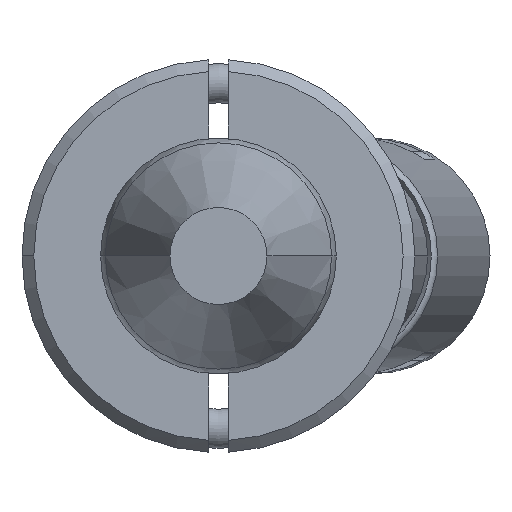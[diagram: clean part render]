
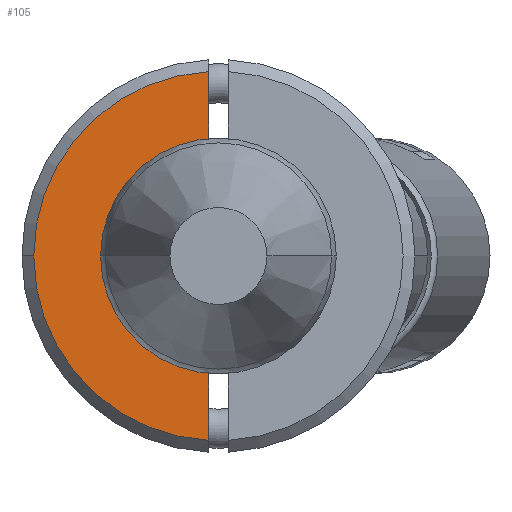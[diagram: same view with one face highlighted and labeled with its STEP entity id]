
A CAD part, front view. The second image highlights one B-rep face of the part: STEP entity #105.
In plain terms, the highlighted planar face has unit normal (0, -1, 0).
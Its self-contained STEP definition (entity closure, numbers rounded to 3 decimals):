
#69 = DIRECTION ( 'NONE',  ( 0., -1., 0. ) ) ;
#105 = ADVANCED_FACE ( 'NONE', ( #1828 ), #360, .T. ) ;
#238 = CARTESIAN_POINT ( 'NONE',  ( -5., -6., 0.25 ) ) ;
#285 = DIRECTION ( 'NONE',  ( 0., -1., 0. ) ) ;
#299 = DIRECTION ( 'NONE',  ( 0., 0., -1. ) ) ;
#360 = PLANE ( 'NONE',  #450 ) ;
#450 = AXIS2_PLACEMENT_3D ( 'NONE', #1844, #69, #299 ) ;
#595 = CARTESIAN_POINT ( 'NONE',  ( -4.693, -6., 0.25 ) ) ;
#717 = VERTEX_POINT ( 'NONE', #595 ) ;
#734 = CARTESIAN_POINT ( 'NONE',  ( 2.437, -6., 0.25 ) ) ;
#861 = DIRECTION ( 'NONE',  ( 0., 0., -1. ) ) ;
#888 = AXIS2_PLACEMENT_3D ( 'NONE', #2349, #3545, #861 ) ;
#1137 = CIRCLE ( 'NONE', #888, 4.7 ) ;
#1174 = VECTOR ( 'NONE', #3277, 1000. ) ;
#1402 = VERTEX_POINT ( 'NONE', #2969 ) ;
#1522 = CARTESIAN_POINT ( 'NONE',  ( 0., -6., 0. ) ) ;
#1712 = EDGE_CURVE ( 'NONE', #1402, #3720, #2896, .T. ) ;
#1828 = FACE_OUTER_BOUND ( 'NONE', #2360, .T. ) ;
#1844 = CARTESIAN_POINT ( 'NONE',  ( -5., -6., 0. ) ) ;
#1950 = ORIENTED_EDGE ( 'NONE', *, *, #2055, .F. ) ;
#2003 = CARTESIAN_POINT ( 'NONE',  ( 0., -6., 4.7 ) ) ;
#2055 = EDGE_CURVE ( 'NONE', #3772, #717, #3246, .T. ) ;
#2158 = DIRECTION ( 'NONE',  ( 0., 1., 0. ) ) ;
#2349 = CARTESIAN_POINT ( 'NONE',  ( 0., -6., 0. ) ) ;
#2356 = CARTESIAN_POINT ( 'NONE',  ( -5., -6., 0.25 ) ) ;
#2360 = EDGE_LOOP ( 'NONE', ( #2713, #3771, #2537, #1950, #3298 ) ) ;
#2399 = CIRCLE ( 'NONE', #3463, 2.45 ) ;
#2493 = DIRECTION ( 'NONE',  ( 0., 0., -1. ) ) ;
#2537 = ORIENTED_EDGE ( 'NONE', *, *, #3034, .T. ) ;
#2649 = VERTEX_POINT ( 'NONE', #2003 ) ;
#2713 = ORIENTED_EDGE ( 'NONE', *, *, #1712, .F. ) ;
#2896 = LINE ( 'NONE', #2356, #1174 ) ;
#2947 = CARTESIAN_POINT ( 'NONE',  ( 0., -6., 0. ) ) ;
#2969 = CARTESIAN_POINT ( 'NONE',  ( 4.693, -6., 0.25 ) ) ;
#3034 = EDGE_CURVE ( 'NONE', #2649, #717, #1137, .T. ) ;
#3246 = LINE ( 'NONE', #238, #3429 ) ;
#3276 = CIRCLE ( 'NONE', #3843, 4.7 ) ;
#3277 = DIRECTION ( 'NONE',  ( -1., 0., 0. ) ) ;
#3298 = ORIENTED_EDGE ( 'NONE', *, *, #3521, .T. ) ;
#3429 = VECTOR ( 'NONE', #3780, 1000. ) ;
#3463 = AXIS2_PLACEMENT_3D ( 'NONE', #1522, #2158, #2493 ) ;
#3468 = EDGE_CURVE ( 'NONE', #1402, #2649, #3276, .T. ) ;
#3512 = CARTESIAN_POINT ( 'NONE',  ( -2.437, -6., 0.25 ) ) ;
#3521 = EDGE_CURVE ( 'NONE', #3772, #3720, #2399, .T. ) ;
#3545 = DIRECTION ( 'NONE',  ( 0., -1., 0. ) ) ;
#3632 = DIRECTION ( 'NONE',  ( 0., 0., -1. ) ) ;
#3720 = VERTEX_POINT ( 'NONE', #734 ) ;
#3771 = ORIENTED_EDGE ( 'NONE', *, *, #3468, .T. ) ;
#3772 = VERTEX_POINT ( 'NONE', #3512 ) ;
#3780 = DIRECTION ( 'NONE',  ( -1., 0., 0. ) ) ;
#3843 = AXIS2_PLACEMENT_3D ( 'NONE', #2947, #285, #3632 ) ;
